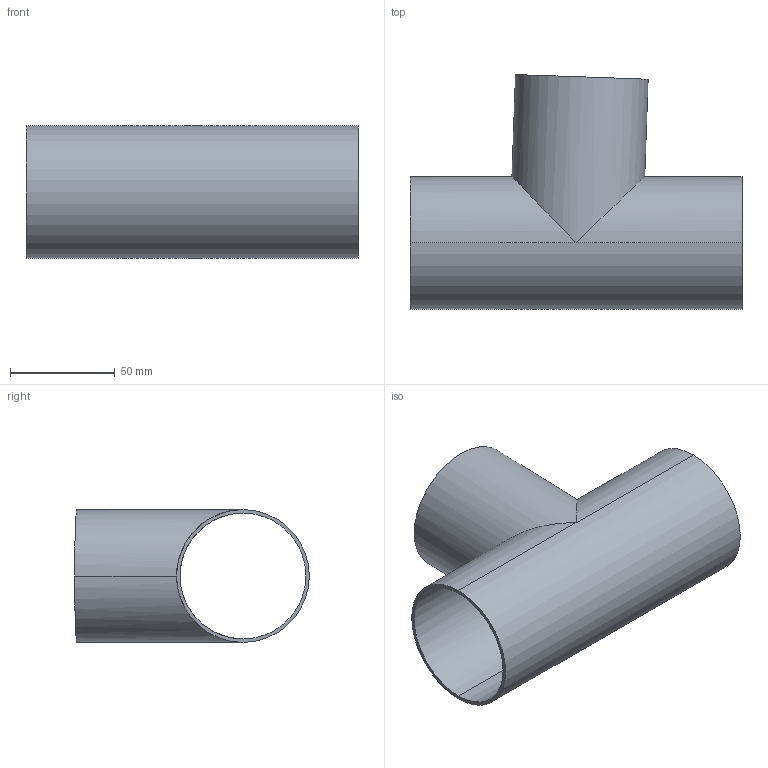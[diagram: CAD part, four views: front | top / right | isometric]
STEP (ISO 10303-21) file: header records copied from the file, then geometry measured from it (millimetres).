
FILE_DESCRIPTION (( 'STEP AP214' ), '1' );
FILE_NAME ('TE7WWW886L2.5-...STEP', '2016-05-23T04:57:20', ( 'eran' ), ( '' ), 'SwSTEP 2.0', 'SolidWorks 2016', '' );
FILE_SCHEMA (( 'AUTOMOTIVE_DESIGN' ));
Length unit declared in the file: millimetre
Products named in the file (1): TE7WWW886L2.5-..
Bounding box: 158.8 x 112.26 x 63.5 mm (x, y, z)
Volume: 63747.5 mm3; surface area: 79474 mm2
Topology: 2 solids, 2 shells, 15 faces, 36 edges, 24 vertices
Faces by surface type: cylinder 12, plane 3
Entity records: 781 total; most frequent: CARTESIAN_POINT 392, ORIENTED_EDGE 72, DIRECTION 68, EDGE_CURVE 36, AXIS2_PLACEMENT_3D 28, VERTEX_POINT 24, EDGE_LOOP 20, FACE_OUTER_BOUND 15
